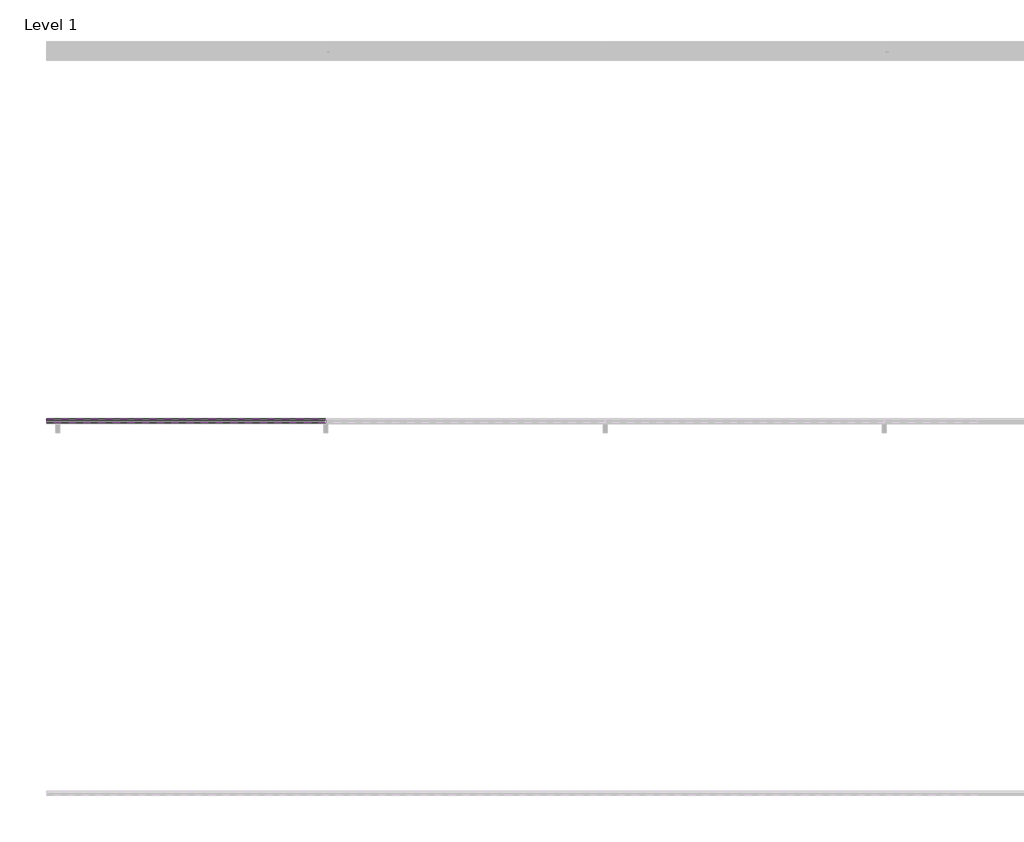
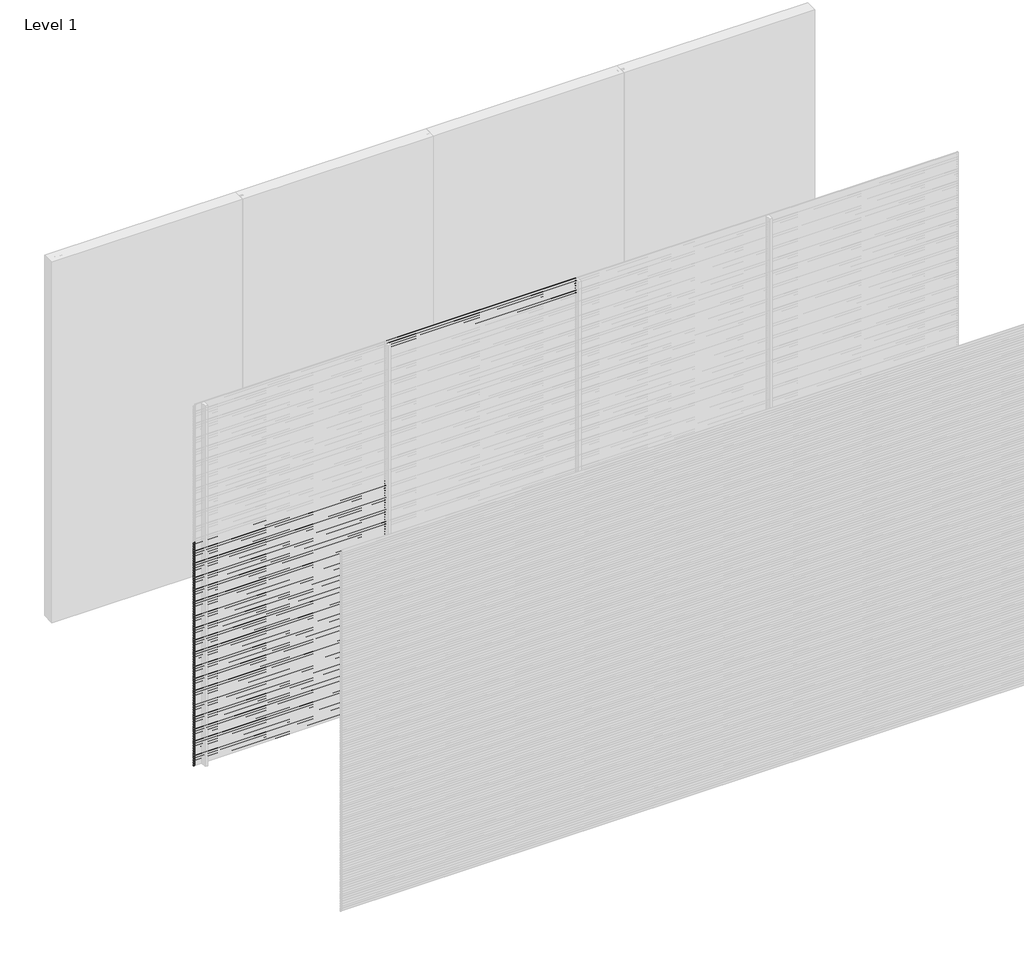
# One storey, part 19 of 31: 99 proxies.
"""IFC4 building model written with IfcOpenShell, lengths in millimetres."""

from ifc_helpers import new_model, si_unit, frame, origin, place, context, project, spatial, polyline, outline, extrude, element, save

model = new_model("IFC4")

# Units and contexts
model_context = context("Model", 3, world=origin())
ifc_project = project(units=[si_unit("LENGTHUNIT", "METRE", prefix="MILLI")], contexts=[model_context])

# Site, building, storey
site = spatial("IfcSite", under=ifc_project)
building = spatial("IfcBuilding", under=site)
storey = spatial("IfcBuildingStorey", under=building, Name="Level 1", Elevation=0.0)

# Proxies
placement = place(None, origin())
element("IfcBuildingElementProxy", 1, Name="Wall Sweeps", at=placement, inside=storey, context=model_context, shape_type="SweptSolid", body=[
    extrude(outline(polyline([(-5995.0, 1860.0), (-5995.0, 1848.942893), (-5976.0, 1833.0), (-5976.0, 1820.0), (-5997.0, 1837.6210923), (-5997.0, 1860.0), (-5995.0, 1860.0)])), frame((0.0, 0.0, 0.0), z_axis=(1.0, 0.0, 0.0), x_axis=(0.0, 1.0, 0.0)), (0.0, 0.0, 1.0), 1500.0),
])
element("IfcBuildingElementProxy", 2, Name="Wall Sweeps", at=placement, inside=storey, context=model_context, shape_type="SweptSolid", body=[
    extrude(outline(polyline([(-5995.0, 1840.0), (-5995.0, 1828.942893), (-5976.0, 1813.0), (-5976.0, 1800.0), (-5997.0, 1817.6210923), (-5997.0, 1840.0), (-5995.0, 1840.0)])), frame((0.0, 0.0, 0.0), z_axis=(1.0, 0.0, 0.0), x_axis=(0.0, 1.0, 0.0)), (0.0, 0.0, 1.0), 1500.0),
])
element("IfcBuildingElementProxy", 3, Name="Wall Sweeps", at=placement, inside=storey, context=model_context, shape_type="SweptSolid", body=[
    extrude(outline(polyline([(-5995.0, 1820.0), (-5995.0, 1808.942893), (-5976.0, 1793.0), (-5976.0, 1780.0), (-5997.0, 1797.6210923), (-5997.0, 1820.0), (-5995.0, 1820.0)])), frame((0.0, 0.0, 0.0), z_axis=(1.0, 0.0, 0.0), x_axis=(0.0, 1.0, 0.0)), (0.0, 0.0, 1.0), 1500.0),
])
element("IfcBuildingElementProxy", 4, Name="Wall Sweeps", at=placement, inside=storey, context=model_context, shape_type="SweptSolid", body=[
    extrude(outline(polyline([(-5995.0, 1800.0), (-5995.0, 1788.942893), (-5976.0, 1773.0), (-5976.0, 1760.0), (-5997.0, 1777.6210923), (-5997.0, 1800.0), (-5995.0, 1800.0)])), frame((0.0, 0.0, 0.0), z_axis=(1.0, 0.0, 0.0), x_axis=(0.0, 1.0, 0.0)), (0.0, 0.0, 1.0), 1500.0),
])
element("IfcBuildingElementProxy", 5, Name="Wall Sweeps", at=placement, inside=storey, context=model_context, shape_type="SweptSolid", body=[
    extrude(outline(polyline([(-5995.0, 1780.0), (-5995.0, 1768.942893), (-5976.0, 1753.0), (-5976.0, 1740.0), (-5997.0, 1757.6210923), (-5997.0, 1780.0), (-5995.0, 1780.0)])), frame((0.0, 0.0, 0.0), z_axis=(1.0, 0.0, 0.0), x_axis=(0.0, 1.0, 0.0)), (0.0, 0.0, 1.0), 1500.0),
])
element("IfcBuildingElementProxy", 6, Name="Wall Sweeps", at=placement, inside=storey, context=model_context, shape_type="SweptSolid", body=[
    extrude(outline(polyline([(-5995.0, 1760.0), (-5995.0, 1748.942893), (-5976.0, 1733.0), (-5976.0, 1720.0), (-5997.0, 1737.6210923), (-5997.0, 1760.0), (-5995.0, 1760.0)])), frame((0.0, 0.0, 0.0), z_axis=(1.0, 0.0, 0.0), x_axis=(0.0, 1.0, 0.0)), (0.0, 0.0, 1.0), 1500.0),
])
element("IfcBuildingElementProxy", 7, Name="Wall Sweeps", at=placement, inside=storey, context=model_context, shape_type="SweptSolid", body=[
    extrude(outline(polyline([(-5995.0, 1740.0), (-5995.0, 1728.942893), (-5976.0, 1713.0), (-5976.0, 1700.0), (-5997.0, 1717.6210923), (-5997.0, 1740.0), (-5995.0, 1740.0)])), frame((0.0, 0.0, 0.0), z_axis=(1.0, 0.0, 0.0), x_axis=(0.0, 1.0, 0.0)), (0.0, 0.0, 1.0), 1500.0),
])
element("IfcBuildingElementProxy", 8, Name="Wall Sweeps", at=placement, inside=storey, context=model_context, shape_type="SweptSolid", body=[
    extrude(outline(polyline([(-5995.0, 1720.0), (-5995.0, 1708.942893), (-5976.0, 1693.0), (-5976.0, 1680.0), (-5997.0, 1697.6210923), (-5997.0, 1720.0), (-5995.0, 1720.0)])), frame((0.0, 0.0, 0.0), z_axis=(1.0, 0.0, 0.0), x_axis=(0.0, 1.0, 0.0)), (0.0, 0.0, 1.0), 1500.0),
])
element("IfcBuildingElementProxy", 9, Name="Wall Sweeps", at=placement, inside=storey, context=model_context, shape_type="SweptSolid", body=[
    extrude(outline(polyline([(-5995.0, 1700.0), (-5995.0, 1688.942893), (-5976.0, 1673.0), (-5976.0, 1660.0), (-5997.0, 1677.6210923), (-5997.0, 1700.0), (-5995.0, 1700.0)])), frame((0.0, 0.0, 0.0), z_axis=(1.0, 0.0, 0.0), x_axis=(0.0, 1.0, 0.0)), (0.0, 0.0, 1.0), 1500.0),
])
element("IfcBuildingElementProxy", 10, Name="Wall Sweeps", at=placement, inside=storey, context=model_context, shape_type="SweptSolid", body=[
    extrude(outline(polyline([(-5995.0, 1680.0), (-5995.0, 1668.942893), (-5976.0, 1653.0), (-5976.0, 1640.0), (-5997.0, 1657.6210923), (-5997.0, 1680.0), (-5995.0, 1680.0)])), frame((0.0, 0.0, 0.0), z_axis=(1.0, 0.0, 0.0), x_axis=(0.0, 1.0, 0.0)), (0.0, 0.0, 1.0), 1500.0),
])
element("IfcBuildingElementProxy", 11, Name="Wall Sweeps", at=placement, inside=storey, context=model_context, shape_type="SweptSolid", body=[
    extrude(outline(polyline([(-5995.0, 1660.0), (-5995.0, 1648.942893), (-5976.0, 1633.0), (-5976.0, 1620.0), (-5997.0, 1637.6210923), (-5997.0, 1660.0), (-5995.0, 1660.0)])), frame((0.0, 0.0, 0.0), z_axis=(1.0, 0.0, 0.0), x_axis=(0.0, 1.0, 0.0)), (0.0, 0.0, 1.0), 1500.0),
])
element("IfcBuildingElementProxy", 12, Name="Wall Sweeps", at=placement, inside=storey, context=model_context, shape_type="SweptSolid", body=[
    extrude(outline(polyline([(-5995.0, 1640.0), (-5995.0, 1628.942893), (-5976.0, 1613.0), (-5976.0, 1600.0), (-5997.0, 1617.6210923), (-5997.0, 1640.0), (-5995.0, 1640.0)])), frame((0.0, 0.0, 0.0), z_axis=(1.0, 0.0, 0.0), x_axis=(0.0, 1.0, 0.0)), (0.0, 0.0, 1.0), 1500.0),
])
element("IfcBuildingElementProxy", 13, Name="Wall Sweeps", at=placement, inside=storey, context=model_context, shape_type="SweptSolid", body=[
    extrude(outline(polyline([(-5995.0, 1620.0), (-5995.0, 1608.942893), (-5976.0, 1593.0), (-5976.0, 1580.0), (-5997.0, 1597.6210923), (-5997.0, 1620.0), (-5995.0, 1620.0)])), frame((0.0, 0.0, 0.0), z_axis=(1.0, 0.0, 0.0), x_axis=(0.0, 1.0, 0.0)), (0.0, 0.0, 1.0), 1500.0),
])
element("IfcBuildingElementProxy", 14, Name="Wall Sweeps", at=placement, inside=storey, context=model_context, shape_type="SweptSolid", body=[
    extrude(outline(polyline([(-5995.0, 1600.0), (-5995.0, 1588.942893), (-5976.0, 1573.0), (-5976.0, 1560.0), (-5997.0, 1577.6210923), (-5997.0, 1600.0), (-5995.0, 1600.0)])), frame((0.0, 0.0, 0.0), z_axis=(1.0, 0.0, 0.0), x_axis=(0.0, 1.0, 0.0)), (0.0, 0.0, 1.0), 1500.0),
])
element("IfcBuildingElementProxy", 15, Name="Wall Sweeps", at=placement, inside=storey, context=model_context, shape_type="SweptSolid", body=[
    extrude(outline(polyline([(-5995.0, 1580.0), (-5995.0, 1568.942893), (-5976.0, 1553.0), (-5976.0, 1540.0), (-5997.0, 1557.6210923), (-5997.0, 1580.0), (-5995.0, 1580.0)])), frame((0.0, 0.0, 0.0), z_axis=(1.0, 0.0, 0.0), x_axis=(0.0, 1.0, 0.0)), (0.0, 0.0, 1.0), 1500.0),
])
element("IfcBuildingElementProxy", 16, Name="Wall Sweeps", at=placement, inside=storey, context=model_context, shape_type="SweptSolid", body=[
    extrude(outline(polyline([(-5995.0, 1560.0), (-5995.0, 1548.942893), (-5976.0, 1533.0), (-5976.0, 1520.0), (-5997.0, 1537.6210923), (-5997.0, 1560.0), (-5995.0, 1560.0)])), frame((0.0, 0.0, 0.0), z_axis=(1.0, 0.0, 0.0), x_axis=(0.0, 1.0, 0.0)), (0.0, 0.0, 1.0), 1500.0),
])
element("IfcBuildingElementProxy", 17, Name="Wall Sweeps", at=placement, inside=storey, context=model_context, shape_type="SweptSolid", body=[
    extrude(outline(polyline([(-5995.0, 1540.0), (-5995.0, 1528.942893), (-5976.0, 1513.0), (-5976.0, 1500.0), (-5997.0, 1517.6210923), (-5997.0, 1540.0), (-5995.0, 1540.0)])), frame((0.0, 0.0, 0.0), z_axis=(1.0, 0.0, 0.0), x_axis=(0.0, 1.0, 0.0)), (0.0, 0.0, 1.0), 1500.0),
])
element("IfcBuildingElementProxy", 18, Name="Wall Sweeps", at=placement, inside=storey, context=model_context, shape_type="SweptSolid", body=[
    extrude(outline(polyline([(-5995.0, 1520.0), (-5995.0, 1508.942893), (-5976.0, 1493.0), (-5976.0, 1480.0), (-5997.0, 1497.6210923), (-5997.0, 1520.0), (-5995.0, 1520.0)])), frame((0.0, 0.0, 0.0), z_axis=(1.0, 0.0, 0.0), x_axis=(0.0, 1.0, 0.0)), (0.0, 0.0, 1.0), 1500.0),
])
element("IfcBuildingElementProxy", 19, Name="Wall Sweeps", at=placement, inside=storey, context=model_context, shape_type="SweptSolid", body=[
    extrude(outline(polyline([(-5995.0, 1500.0), (-5995.0, 1488.942893), (-5976.0, 1473.0), (-5976.0, 1460.0), (-5997.0, 1477.6210923), (-5997.0, 1500.0), (-5995.0, 1500.0)])), frame((0.0, 0.0, 0.0), z_axis=(1.0, 0.0, 0.0), x_axis=(0.0, 1.0, 0.0)), (0.0, 0.0, 1.0), 1500.0),
])
element("IfcBuildingElementProxy", 20, Name="Wall Sweeps", at=placement, inside=storey, context=model_context, shape_type="SweptSolid", body=[
    extrude(outline(polyline([(-5995.0, 1480.0), (-5995.0, 1468.942893), (-5976.0, 1453.0), (-5976.0, 1440.0), (-5997.0, 1457.6210923), (-5997.0, 1480.0), (-5995.0, 1480.0)])), frame((0.0, 0.0, 0.0), z_axis=(1.0, 0.0, 0.0), x_axis=(0.0, 1.0, 0.0)), (0.0, 0.0, 1.0), 1500.0),
])
element("IfcBuildingElementProxy", 21, Name="Wall Sweeps", at=placement, inside=storey, context=model_context, shape_type="SweptSolid", body=[
    extrude(outline(polyline([(-5995.0, 1460.0), (-5995.0, 1448.942893), (-5976.0, 1433.0), (-5976.0, 1420.0), (-5997.0, 1437.6210923), (-5997.0, 1460.0), (-5995.0, 1460.0)])), frame((0.0, 0.0, 0.0), z_axis=(1.0, 0.0, 0.0), x_axis=(0.0, 1.0, 0.0)), (0.0, 0.0, 1.0), 1500.0),
])
element("IfcBuildingElementProxy", 22, Name="Wall Sweeps", at=placement, inside=storey, context=model_context, shape_type="SweptSolid", body=[
    extrude(outline(polyline([(-5995.0, 1440.0), (-5995.0, 1428.942893), (-5976.0, 1413.0), (-5976.0, 1400.0), (-5997.0, 1417.6210923), (-5997.0, 1440.0), (-5995.0, 1440.0)])), frame((0.0, 0.0, 0.0), z_axis=(1.0, 0.0, 0.0), x_axis=(0.0, 1.0, 0.0)), (0.0, 0.0, 1.0), 1500.0),
])
element("IfcBuildingElementProxy", 23, Name="Wall Sweeps", at=placement, inside=storey, context=model_context, shape_type="SweptSolid", body=[
    extrude(outline(polyline([(-5995.0, 1420.0), (-5995.0, 1408.942893), (-5976.0, 1393.0), (-5976.0, 1380.0), (-5997.0, 1397.6210923), (-5997.0, 1420.0), (-5995.0, 1420.0)])), frame((0.0, 0.0, 0.0), z_axis=(1.0, 0.0, 0.0), x_axis=(0.0, 1.0, 0.0)), (0.0, 0.0, 1.0), 1500.0),
])
element("IfcBuildingElementProxy", 24, Name="Wall Sweeps", at=placement, inside=storey, context=model_context, shape_type="SweptSolid", body=[
    extrude(outline(polyline([(-5995.0, 1400.0), (-5995.0, 1388.942893), (-5976.0, 1373.0), (-5976.0, 1360.0), (-5997.0, 1377.6210923), (-5997.0, 1400.0), (-5995.0, 1400.0)])), frame((0.0, 0.0, 0.0), z_axis=(1.0, 0.0, 0.0), x_axis=(0.0, 1.0, 0.0)), (0.0, 0.0, 1.0), 1500.0),
])
element("IfcBuildingElementProxy", 25, Name="Wall Sweeps", at=placement, inside=storey, context=model_context, shape_type="SweptSolid", body=[
    extrude(outline(polyline([(-5995.0, 1380.0), (-5995.0, 1368.942893), (-5976.0, 1353.0), (-5976.0, 1340.0), (-5997.0, 1357.6210923), (-5997.0, 1380.0), (-5995.0, 1380.0)])), frame((0.0, 0.0, 0.0), z_axis=(1.0, 0.0, 0.0), x_axis=(0.0, 1.0, 0.0)), (0.0, 0.0, 1.0), 1500.0),
])
element("IfcBuildingElementProxy", 26, Name="Wall Sweeps", at=placement, inside=storey, context=model_context, shape_type="SweptSolid", body=[
    extrude(outline(polyline([(-5995.0, 1360.0), (-5995.0, 1348.942893), (-5976.0, 1333.0), (-5976.0, 1320.0), (-5997.0, 1337.6210923), (-5997.0, 1360.0), (-5995.0, 1360.0)])), frame((0.0, 0.0, 0.0), z_axis=(1.0, 0.0, 0.0), x_axis=(0.0, 1.0, 0.0)), (0.0, 0.0, 1.0), 1500.0),
])
element("IfcBuildingElementProxy", 27, Name="Wall Sweeps", at=placement, inside=storey, context=model_context, shape_type="SweptSolid", body=[
    extrude(outline(polyline([(-5995.0, 1340.0), (-5995.0, 1328.942893), (-5976.0, 1313.0), (-5976.0, 1300.0), (-5997.0, 1317.6210923), (-5997.0, 1340.0), (-5995.0, 1340.0)])), frame((0.0, 0.0, 0.0), z_axis=(1.0, 0.0, 0.0), x_axis=(0.0, 1.0, 0.0)), (0.0, 0.0, 1.0), 1500.0),
])
element("IfcBuildingElementProxy", 28, Name="Wall Sweeps", at=placement, inside=storey, context=model_context, shape_type="SweptSolid", body=[
    extrude(outline(polyline([(-5995.0, 1320.0), (-5995.0, 1308.942893), (-5976.0, 1293.0), (-5976.0, 1280.0), (-5997.0, 1297.6210923), (-5997.0, 1320.0), (-5995.0, 1320.0)])), frame((0.0, 0.0, 0.0), z_axis=(1.0, 0.0, 0.0), x_axis=(0.0, 1.0, 0.0)), (0.0, 0.0, 1.0), 1500.0),
])
element("IfcBuildingElementProxy", 29, Name="Wall Sweeps", at=placement, inside=storey, context=model_context, shape_type="SweptSolid", body=[
    extrude(outline(polyline([(-5995.0, 1300.0), (-5995.0, 1288.942893), (-5976.0, 1273.0), (-5976.0, 1260.0), (-5997.0, 1277.6210923), (-5997.0, 1300.0), (-5995.0, 1300.0)])), frame((0.0, 0.0, 0.0), z_axis=(1.0, 0.0, 0.0), x_axis=(0.0, 1.0, 0.0)), (0.0, 0.0, 1.0), 1500.0),
])
element("IfcBuildingElementProxy", 30, Name="Wall Sweeps", at=placement, inside=storey, context=model_context, shape_type="SweptSolid", body=[
    extrude(outline(polyline([(-5995.0, 1280.0), (-5995.0, 1268.942893), (-5976.0, 1253.0), (-5976.0, 1240.0), (-5997.0, 1257.6210923), (-5997.0, 1280.0), (-5995.0, 1280.0)])), frame((0.0, 0.0, 0.0), z_axis=(1.0, 0.0, 0.0), x_axis=(0.0, 1.0, 0.0)), (0.0, 0.0, 1.0), 1500.0),
])
element("IfcBuildingElementProxy", 31, Name="Wall Sweeps", at=placement, inside=storey, context=model_context, shape_type="SweptSolid", body=[
    extrude(outline(polyline([(-5995.0, 1260.0), (-5995.0, 1248.942893), (-5976.0, 1233.0), (-5976.0, 1220.0), (-5997.0, 1237.6210923), (-5997.0, 1260.0), (-5995.0, 1260.0)])), frame((0.0, 0.0, 0.0), z_axis=(1.0, 0.0, 0.0), x_axis=(0.0, 1.0, 0.0)), (0.0, 0.0, 1.0), 1500.0),
])
element("IfcBuildingElementProxy", 32, Name="Wall Sweeps", at=placement, inside=storey, context=model_context, shape_type="SweptSolid", body=[
    extrude(outline(polyline([(-5995.0, 1240.0), (-5995.0, 1228.942893), (-5976.0, 1213.0), (-5976.0, 1200.0), (-5997.0, 1217.6210923), (-5997.0, 1240.0), (-5995.0, 1240.0)])), frame((0.0, 0.0, 0.0), z_axis=(1.0, 0.0, 0.0), x_axis=(0.0, 1.0, 0.0)), (0.0, 0.0, 1.0), 1500.0),
])
element("IfcBuildingElementProxy", 33, Name="Wall Sweeps", at=placement, inside=storey, context=model_context, shape_type="SweptSolid", body=[
    extrude(outline(polyline([(-5995.0, 1220.0), (-5995.0, 1208.942893), (-5976.0, 1193.0), (-5976.0, 1180.0), (-5997.0, 1197.6210923), (-5997.0, 1220.0), (-5995.0, 1220.0)])), frame((0.0, 0.0, 0.0), z_axis=(1.0, 0.0, 0.0), x_axis=(0.0, 1.0, 0.0)), (0.0, 0.0, 1.0), 1500.0),
])
element("IfcBuildingElementProxy", 34, Name="Wall Sweeps", at=placement, inside=storey, context=model_context, shape_type="SweptSolid", body=[
    extrude(outline(polyline([(-5995.0, 1200.0), (-5995.0, 1188.942893), (-5976.0, 1173.0), (-5976.0, 1160.0), (-5997.0, 1177.6210923), (-5997.0, 1200.0), (-5995.0, 1200.0)])), frame((0.0, 0.0, 0.0), z_axis=(1.0, 0.0, 0.0), x_axis=(0.0, 1.0, 0.0)), (0.0, 0.0, 1.0), 1500.0),
])
element("IfcBuildingElementProxy", 35, Name="Wall Sweeps", at=placement, inside=storey, context=model_context, shape_type="SweptSolid", body=[
    extrude(outline(polyline([(-5995.0, 1180.0), (-5995.0, 1168.942893), (-5976.0, 1153.0), (-5976.0, 1140.0), (-5997.0, 1157.6210923), (-5997.0, 1180.0), (-5995.0, 1180.0)])), frame((0.0, 0.0, 0.0), z_axis=(1.0, 0.0, 0.0), x_axis=(0.0, 1.0, 0.0)), (0.0, 0.0, 1.0), 1500.0),
])
element("IfcBuildingElementProxy", 36, Name="Wall Sweeps", at=placement, inside=storey, context=model_context, shape_type="SweptSolid", body=[
    extrude(outline(polyline([(-5995.0, 1160.0), (-5995.0, 1148.942893), (-5976.0, 1133.0), (-5976.0, 1120.0), (-5997.0, 1137.6210923), (-5997.0, 1160.0), (-5995.0, 1160.0)])), frame((0.0, 0.0, 0.0), z_axis=(1.0, 0.0, 0.0), x_axis=(0.0, 1.0, 0.0)), (0.0, 0.0, 1.0), 1500.0),
])
element("IfcBuildingElementProxy", 37, Name="Wall Sweeps", at=placement, inside=storey, context=model_context, shape_type="SweptSolid", body=[
    extrude(outline(polyline([(-5995.0, 1140.0), (-5995.0, 1128.942893), (-5976.0, 1113.0), (-5976.0, 1100.0), (-5997.0, 1117.6210923), (-5997.0, 1140.0), (-5995.0, 1140.0)])), frame((0.0, 0.0, 0.0), z_axis=(1.0, 0.0, 0.0), x_axis=(0.0, 1.0, 0.0)), (0.0, 0.0, 1.0), 1500.0),
])
element("IfcBuildingElementProxy", 38, Name="Wall Sweeps", at=placement, inside=storey, context=model_context, shape_type="SweptSolid", body=[
    extrude(outline(polyline([(-5995.0, 1120.0), (-5995.0, 1108.942893), (-5976.0, 1093.0), (-5976.0, 1080.0), (-5997.0, 1097.6210923), (-5997.0, 1120.0), (-5995.0, 1120.0)])), frame((0.0, 0.0, 0.0), z_axis=(1.0, 0.0, 0.0), x_axis=(0.0, 1.0, 0.0)), (0.0, 0.0, 1.0), 1500.0),
])
element("IfcBuildingElementProxy", 39, Name="Wall Sweeps", at=placement, inside=storey, context=model_context, shape_type="SweptSolid", body=[
    extrude(outline(polyline([(-5995.0, 1100.0), (-5995.0, 1088.942893), (-5976.0, 1073.0), (-5976.0, 1060.0), (-5997.0, 1077.6210923), (-5997.0, 1100.0), (-5995.0, 1100.0)])), frame((0.0, 0.0, 0.0), z_axis=(1.0, 0.0, 0.0), x_axis=(0.0, 1.0, 0.0)), (0.0, 0.0, 1.0), 1500.0),
])
element("IfcBuildingElementProxy", 40, Name="Wall Sweeps", at=placement, inside=storey, context=model_context, shape_type="SweptSolid", body=[
    extrude(outline(polyline([(-5995.0, 1080.0), (-5995.0, 1068.942893), (-5976.0, 1053.0), (-5976.0, 1040.0), (-5997.0, 1057.6210923), (-5997.0, 1080.0), (-5995.0, 1080.0)])), frame((0.0, 0.0, 0.0), z_axis=(1.0, 0.0, 0.0), x_axis=(0.0, 1.0, 0.0)), (0.0, 0.0, 1.0), 1500.0),
])
element("IfcBuildingElementProxy", 41, Name="Wall Sweeps", at=placement, inside=storey, context=model_context, shape_type="SweptSolid", body=[
    extrude(outline(polyline([(-5995.0, 1060.0), (-5995.0, 1048.942893), (-5976.0, 1033.0), (-5976.0, 1020.0), (-5997.0, 1037.6210923), (-5997.0, 1060.0), (-5995.0, 1060.0)])), frame((0.0, 0.0, 0.0), z_axis=(1.0, 0.0, 0.0), x_axis=(0.0, 1.0, 0.0)), (0.0, 0.0, 1.0), 1500.0),
])
element("IfcBuildingElementProxy", 42, Name="Wall Sweeps", at=placement, inside=storey, context=model_context, shape_type="SweptSolid", body=[
    extrude(outline(polyline([(-5995.0, 1040.0), (-5995.0, 1028.942893), (-5976.0, 1013.0), (-5976.0, 1000.0), (-5997.0, 1017.6210923), (-5997.0, 1040.0), (-5995.0, 1040.0)])), frame((0.0, 0.0, 0.0), z_axis=(1.0, 0.0, 0.0), x_axis=(0.0, 1.0, 0.0)), (0.0, 0.0, 1.0), 1500.0),
])
element("IfcBuildingElementProxy", 43, Name="Wall Sweeps", at=placement, inside=storey, context=model_context, shape_type="SweptSolid", body=[
    extrude(outline(polyline([(-5995.0, 1020.0), (-5995.0, 1008.942893), (-5976.0, 993.0), (-5976.0, 980.0), (-5997.0, 997.6210923), (-5997.0, 1020.0), (-5995.0, 1020.0)])), frame((0.0, 0.0, 0.0), z_axis=(1.0, 0.0, 0.0), x_axis=(0.0, 1.0, 0.0)), (0.0, 0.0, 1.0), 1500.0),
])
element("IfcBuildingElementProxy", 44, Name="Wall Sweeps", at=placement, inside=storey, context=model_context, shape_type="SweptSolid", body=[
    extrude(outline(polyline([(-5995.0, 1000.0), (-5995.0, 988.942893), (-5976.0, 973.0), (-5976.0, 960.0), (-5997.0, 977.6210923), (-5997.0, 1000.0), (-5995.0, 1000.0)])), frame((0.0, 0.0, 0.0), z_axis=(1.0, 0.0, 0.0), x_axis=(0.0, 1.0, 0.0)), (0.0, 0.0, 1.0), 1500.0),
])
element("IfcBuildingElementProxy", 45, Name="Wall Sweeps", at=placement, inside=storey, context=model_context, shape_type="SweptSolid", body=[
    extrude(outline(polyline([(-5995.0, 980.0), (-5995.0, 968.942893), (-5976.0, 953.0), (-5976.0, 940.0), (-5997.0, 957.6210923), (-5997.0, 980.0), (-5995.0, 980.0)])), frame((0.0, 0.0, 0.0), z_axis=(1.0, 0.0, 0.0), x_axis=(0.0, 1.0, 0.0)), (0.0, 0.0, 1.0), 1500.0),
])
element("IfcBuildingElementProxy", 46, Name="Wall Sweeps", at=placement, inside=storey, context=model_context, shape_type="SweptSolid", body=[
    extrude(outline(polyline([(-5995.0, 960.0), (-5995.0, 948.942893), (-5976.0, 933.0), (-5976.0, 920.0), (-5997.0, 937.6210923), (-5997.0, 960.0), (-5995.0, 960.0)])), frame((0.0, 0.0, 0.0), z_axis=(1.0, 0.0, 0.0), x_axis=(0.0, 1.0, 0.0)), (0.0, 0.0, 1.0), 1500.0),
])
element("IfcBuildingElementProxy", 47, Name="Wall Sweeps", at=placement, inside=storey, context=model_context, shape_type="SweptSolid", body=[
    extrude(outline(polyline([(-5995.0, 940.0), (-5995.0, 928.942893), (-5976.0, 913.0), (-5976.0, 900.0), (-5997.0, 917.6210923), (-5997.0, 940.0), (-5995.0, 940.0)])), frame((0.0, 0.0, 0.0), z_axis=(1.0, 0.0, 0.0), x_axis=(0.0, 1.0, 0.0)), (0.0, 0.0, 1.0), 1500.0),
])
element("IfcBuildingElementProxy", 48, Name="Wall Sweeps", at=placement, inside=storey, context=model_context, shape_type="SweptSolid", body=[
    extrude(outline(polyline([(-5995.0, 920.0), (-5995.0, 908.942893), (-5976.0, 893.0), (-5976.0, 880.0), (-5997.0, 897.6210923), (-5997.0, 920.0), (-5995.0, 920.0)])), frame((0.0, 0.0, 0.0), z_axis=(1.0, 0.0, 0.0), x_axis=(0.0, 1.0, 0.0)), (0.0, 0.0, 1.0), 1500.0),
])
element("IfcBuildingElementProxy", 49, Name="Wall Sweeps", at=placement, inside=storey, context=model_context, shape_type="SweptSolid", body=[
    extrude(outline(polyline([(-5995.0, 900.0), (-5995.0, 888.942893), (-5976.0, 873.0), (-5976.0, 860.0), (-5997.0, 877.6210923), (-5997.0, 900.0), (-5995.0, 900.0)])), frame((0.0, 0.0, 0.0), z_axis=(1.0, 0.0, 0.0), x_axis=(0.0, 1.0, 0.0)), (0.0, 0.0, 1.0), 1500.0),
])
element("IfcBuildingElementProxy", 50, Name="Wall Sweeps", at=placement, inside=storey, context=model_context, shape_type="SweptSolid", body=[
    extrude(outline(polyline([(-5995.0, 880.0), (-5995.0, 868.942893), (-5976.0, 853.0), (-5976.0, 840.0), (-5997.0, 857.6210923), (-5997.0, 880.0), (-5995.0, 880.0)])), frame((0.0, 0.0, 0.0), z_axis=(1.0, 0.0, 0.0), x_axis=(0.0, 1.0, 0.0)), (0.0, 0.0, 1.0), 1500.0),
])
element("IfcBuildingElementProxy", 51, Name="Wall Sweeps", at=placement, inside=storey, context=model_context, shape_type="SweptSolid", body=[
    extrude(outline(polyline([(-5995.0, 860.0), (-5995.0, 848.942893), (-5976.0, 833.0), (-5976.0, 820.0), (-5997.0, 837.6210923), (-5997.0, 860.0), (-5995.0, 860.0)])), frame((0.0, 0.0, 0.0), z_axis=(1.0, 0.0, 0.0), x_axis=(0.0, 1.0, 0.0)), (0.0, 0.0, 1.0), 1500.0),
])
element("IfcBuildingElementProxy", 52, Name="Wall Sweeps", at=placement, inside=storey, context=model_context, shape_type="SweptSolid", body=[
    extrude(outline(polyline([(-5995.0, 840.0), (-5995.0, 828.942893), (-5976.0, 813.0), (-5976.0, 800.0), (-5997.0, 817.6210923), (-5997.0, 840.0), (-5995.0, 840.0)])), frame((0.0, 0.0, 0.0), z_axis=(1.0, 0.0, 0.0), x_axis=(0.0, 1.0, 0.0)), (0.0, 0.0, 1.0), 1500.0),
])
element("IfcBuildingElementProxy", 53, Name="Wall Sweeps", at=placement, inside=storey, context=model_context, shape_type="SweptSolid", body=[
    extrude(outline(polyline([(-5995.0, 820.0), (-5995.0, 808.942893), (-5976.0, 793.0), (-5976.0, 780.0), (-5997.0, 797.6210923), (-5997.0, 820.0), (-5995.0, 820.0)])), frame((0.0, 0.0, 0.0), z_axis=(1.0, 0.0, 0.0), x_axis=(0.0, 1.0, 0.0)), (0.0, 0.0, 1.0), 1500.0),
])
element("IfcBuildingElementProxy", 54, Name="Wall Sweeps", at=placement, inside=storey, context=model_context, shape_type="SweptSolid", body=[
    extrude(outline(polyline([(-5995.0, 800.0), (-5995.0, 788.942893), (-5976.0, 773.0), (-5976.0, 760.0), (-5997.0, 777.6210923), (-5997.0, 800.0), (-5995.0, 800.0)])), frame((0.0, 0.0, 0.0), z_axis=(1.0, 0.0, 0.0), x_axis=(0.0, 1.0, 0.0)), (0.0, 0.0, 1.0), 1500.0),
])
element("IfcBuildingElementProxy", 55, Name="Wall Sweeps", at=placement, inside=storey, context=model_context, shape_type="SweptSolid", body=[
    extrude(outline(polyline([(-5995.0, 780.0), (-5995.0, 768.942893), (-5976.0, 753.0), (-5976.0, 740.0), (-5997.0, 757.6210923), (-5997.0, 780.0), (-5995.0, 780.0)])), frame((0.0, 0.0, 0.0), z_axis=(1.0, 0.0, 0.0), x_axis=(0.0, 1.0, 0.0)), (0.0, 0.0, 1.0), 1500.0),
])
element("IfcBuildingElementProxy", 56, Name="Wall Sweeps", at=placement, inside=storey, context=model_context, shape_type="SweptSolid", body=[
    extrude(outline(polyline([(-5995.0, 760.0), (-5995.0, 748.942893), (-5976.0, 733.0), (-5976.0, 720.0), (-5997.0, 737.6210923), (-5997.0, 760.0), (-5995.0, 760.0)])), frame((0.0, 0.0, 0.0), z_axis=(1.0, 0.0, 0.0), x_axis=(0.0, 1.0, 0.0)), (0.0, 0.0, 1.0), 1500.0),
])
element("IfcBuildingElementProxy", 57, Name="Wall Sweeps", at=placement, inside=storey, context=model_context, shape_type="SweptSolid", body=[
    extrude(outline(polyline([(-5995.0, 740.0), (-5995.0, 728.942893), (-5976.0, 713.0), (-5976.0, 700.0), (-5997.0, 717.6210923), (-5997.0, 740.0), (-5995.0, 740.0)])), frame((0.0, 0.0, 0.0), z_axis=(1.0, 0.0, 0.0), x_axis=(0.0, 1.0, 0.0)), (0.0, 0.0, 1.0), 1500.0),
])
element("IfcBuildingElementProxy", 58, Name="Wall Sweeps", at=placement, inside=storey, context=model_context, shape_type="SweptSolid", body=[
    extrude(outline(polyline([(-5995.0, 720.0), (-5995.0, 708.942893), (-5976.0, 693.0), (-5976.0, 680.0), (-5997.0, 697.6210923), (-5997.0, 720.0), (-5995.0, 720.0)])), frame((0.0, 0.0, 0.0), z_axis=(1.0, 0.0, 0.0), x_axis=(0.0, 1.0, 0.0)), (0.0, 0.0, 1.0), 1500.0),
])
element("IfcBuildingElementProxy", 59, Name="Wall Sweeps", at=placement, inside=storey, context=model_context, shape_type="SweptSolid", body=[
    extrude(outline(polyline([(-5995.0, 700.0), (-5995.0, 688.942893), (-5976.0, 673.0), (-5976.0, 660.0), (-5997.0, 677.6210923), (-5997.0, 700.0), (-5995.0, 700.0)])), frame((0.0, 0.0, 0.0), z_axis=(1.0, 0.0, 0.0), x_axis=(0.0, 1.0, 0.0)), (0.0, 0.0, 1.0), 1500.0),
])
element("IfcBuildingElementProxy", 60, Name="Wall Sweeps", at=placement, inside=storey, context=model_context, shape_type="SweptSolid", body=[
    extrude(outline(polyline([(-5995.0, 680.0), (-5995.0, 668.942893), (-5976.0, 653.0), (-5976.0, 640.0), (-5997.0, 657.6210923), (-5997.0, 680.0), (-5995.0, 680.0)])), frame((0.0, 0.0, 0.0), z_axis=(1.0, 0.0, 0.0), x_axis=(0.0, 1.0, 0.0)), (0.0, 0.0, 1.0), 1500.0),
])
element("IfcBuildingElementProxy", 61, Name="Wall Sweeps", at=placement, inside=storey, context=model_context, shape_type="SweptSolid", body=[
    extrude(outline(polyline([(-5995.0, 660.0), (-5995.0, 648.942893), (-5976.0, 633.0), (-5976.0, 620.0), (-5997.0, 637.6210923), (-5997.0, 660.0), (-5995.0, 660.0)])), frame((0.0, 0.0, 0.0), z_axis=(1.0, 0.0, 0.0), x_axis=(0.0, 1.0, 0.0)), (0.0, 0.0, 1.0), 1500.0),
])
element("IfcBuildingElementProxy", 62, Name="Wall Sweeps", at=placement, inside=storey, context=model_context, shape_type="SweptSolid", body=[
    extrude(outline(polyline([(-5995.0, 640.0), (-5995.0, 628.942893), (-5976.0, 613.0), (-5976.0, 600.0), (-5997.0, 617.6210923), (-5997.0, 640.0), (-5995.0, 640.0)])), frame((0.0, 0.0, 0.0), z_axis=(1.0, 0.0, 0.0), x_axis=(0.0, 1.0, 0.0)), (0.0, 0.0, 1.0), 1500.0),
])
element("IfcBuildingElementProxy", 63, Name="Wall Sweeps", at=placement, inside=storey, context=model_context, shape_type="SweptSolid", body=[
    extrude(outline(polyline([(-5995.0, 620.0), (-5995.0, 608.942893), (-5976.0, 593.0), (-5976.0, 580.0), (-5997.0, 597.6210923), (-5997.0, 620.0), (-5995.0, 620.0)])), frame((0.0, 0.0, 0.0), z_axis=(1.0, 0.0, 0.0), x_axis=(0.0, 1.0, 0.0)), (0.0, 0.0, 1.0), 1500.0),
])
element("IfcBuildingElementProxy", 64, Name="Wall Sweeps", at=placement, inside=storey, context=model_context, shape_type="SweptSolid", body=[
    extrude(outline(polyline([(-5995.0, 600.0), (-5995.0, 588.942893), (-5976.0, 573.0), (-5976.0, 560.0), (-5997.0, 577.6210923), (-5997.0, 600.0), (-5995.0, 600.0)])), frame((0.0, 0.0, 0.0), z_axis=(1.0, 0.0, 0.0), x_axis=(0.0, 1.0, 0.0)), (0.0, 0.0, 1.0), 1500.0),
])
element("IfcBuildingElementProxy", 65, Name="Wall Sweeps", at=placement, inside=storey, context=model_context, shape_type="SweptSolid", body=[
    extrude(outline(polyline([(-5995.0, 580.0), (-5995.0, 568.942893), (-5976.0, 553.0), (-5976.0, 540.0), (-5997.0, 557.6210923), (-5997.0, 580.0), (-5995.0, 580.0)])), frame((0.0, 0.0, 0.0), z_axis=(1.0, 0.0, 0.0), x_axis=(0.0, 1.0, 0.0)), (0.0, 0.0, 1.0), 1500.0),
])
element("IfcBuildingElementProxy", 66, Name="Wall Sweeps", at=placement, inside=storey, context=model_context, shape_type="SweptSolid", body=[
    extrude(outline(polyline([(-5995.0, 560.0), (-5995.0, 548.942893), (-5976.0, 533.0), (-5976.0, 520.0), (-5997.0, 537.6210923), (-5997.0, 560.0), (-5995.0, 560.0)])), frame((0.0, 0.0, 0.0), z_axis=(1.0, 0.0, 0.0), x_axis=(0.0, 1.0, 0.0)), (0.0, 0.0, 1.0), 1500.0),
])
element("IfcBuildingElementProxy", 67, Name="Wall Sweeps", at=placement, inside=storey, context=model_context, shape_type="SweptSolid", body=[
    extrude(outline(polyline([(-5995.0, 540.0), (-5995.0, 528.942893), (-5976.0, 513.0), (-5976.0, 500.0), (-5997.0, 517.6210923), (-5997.0, 540.0), (-5995.0, 540.0)])), frame((0.0, 0.0, 0.0), z_axis=(1.0, 0.0, 0.0), x_axis=(0.0, 1.0, 0.0)), (0.0, 0.0, 1.0), 1500.0),
])
element("IfcBuildingElementProxy", 68, Name="Wall Sweeps", at=placement, inside=storey, context=model_context, shape_type="SweptSolid", body=[
    extrude(outline(polyline([(-5995.0, 520.0), (-5995.0, 508.942893), (-5976.0, 493.0), (-5976.0, 480.0), (-5997.0, 497.6210923), (-5997.0, 520.0), (-5995.0, 520.0)])), frame((0.0, 0.0, 0.0), z_axis=(1.0, 0.0, 0.0), x_axis=(0.0, 1.0, 0.0)), (0.0, 0.0, 1.0), 1500.0),
])
element("IfcBuildingElementProxy", 69, Name="Wall Sweeps", at=placement, inside=storey, context=model_context, shape_type="SweptSolid", body=[
    extrude(outline(polyline([(-5995.0, 500.0), (-5995.0, 488.942893), (-5976.0, 473.0), (-5976.0, 460.0), (-5997.0, 477.6210923), (-5997.0, 500.0), (-5995.0, 500.0)])), frame((0.0, 0.0, 0.0), z_axis=(1.0, 0.0, 0.0), x_axis=(0.0, 1.0, 0.0)), (0.0, 0.0, 1.0), 1500.0),
])
element("IfcBuildingElementProxy", 70, Name="Wall Sweeps", at=placement, inside=storey, context=model_context, shape_type="SweptSolid", body=[
    extrude(outline(polyline([(-5995.0, 480.0), (-5995.0, 468.942893), (-5976.0, 453.0), (-5976.0, 440.0), (-5997.0, 457.6210923), (-5997.0, 480.0), (-5995.0, 480.0)])), frame((0.0, 0.0, 0.0), z_axis=(1.0, 0.0, 0.0), x_axis=(0.0, 1.0, 0.0)), (0.0, 0.0, 1.0), 1500.0),
])
element("IfcBuildingElementProxy", 71, Name="Wall Sweeps", at=placement, inside=storey, context=model_context, shape_type="SweptSolid", body=[
    extrude(outline(polyline([(-5995.0, 460.0), (-5995.0, 448.942893), (-5976.0, 433.0), (-5976.0, 420.0), (-5997.0, 437.6210923), (-5997.0, 460.0), (-5995.0, 460.0)])), frame((0.0, 0.0, 0.0), z_axis=(1.0, 0.0, 0.0), x_axis=(0.0, 1.0, 0.0)), (0.0, 0.0, 1.0), 1500.0),
])
element("IfcBuildingElementProxy", 72, Name="Wall Sweeps", at=placement, inside=storey, context=model_context, shape_type="SweptSolid", body=[
    extrude(outline(polyline([(-5995.0, 440.0), (-5995.0, 428.942893), (-5976.0, 413.0), (-5976.0, 400.0), (-5997.0, 417.6210923), (-5997.0, 440.0), (-5995.0, 440.0)])), frame((0.0, 0.0, 0.0), z_axis=(1.0, 0.0, 0.0), x_axis=(0.0, 1.0, 0.0)), (0.0, 0.0, 1.0), 1500.0),
])
element("IfcBuildingElementProxy", 73, Name="Wall Sweeps", at=placement, inside=storey, context=model_context, shape_type="SweptSolid", body=[
    extrude(outline(polyline([(-5995.0, 420.0), (-5995.0, 408.942893), (-5976.0, 393.0), (-5976.0, 380.0), (-5997.0, 397.6210923), (-5997.0, 420.0), (-5995.0, 420.0)])), frame((0.0, 0.0, 0.0), z_axis=(1.0, 0.0, 0.0), x_axis=(0.0, 1.0, 0.0)), (0.0, 0.0, 1.0), 1500.0),
])
element("IfcBuildingElementProxy", 74, Name="Wall Sweeps", at=placement, inside=storey, context=model_context, shape_type="SweptSolid", body=[
    extrude(outline(polyline([(-5995.0, 400.0), (-5995.0, 388.942893), (-5976.0, 373.0), (-5976.0, 360.0), (-5997.0, 377.6210923), (-5997.0, 400.0), (-5995.0, 400.0)])), frame((0.0, 0.0, 0.0), z_axis=(1.0, 0.0, 0.0), x_axis=(0.0, 1.0, 0.0)), (0.0, 0.0, 1.0), 1500.0),
])
element("IfcBuildingElementProxy", 75, Name="Wall Sweeps", at=placement, inside=storey, context=model_context, shape_type="SweptSolid", body=[
    extrude(outline(polyline([(-5995.0, 380.0), (-5995.0, 368.942893), (-5976.0, 353.0), (-5976.0, 340.0), (-5997.0, 357.6210923), (-5997.0, 380.0), (-5995.0, 380.0)])), frame((0.0, 0.0, 0.0), z_axis=(1.0, 0.0, 0.0), x_axis=(0.0, 1.0, 0.0)), (0.0, 0.0, 1.0), 1500.0),
])
element("IfcBuildingElementProxy", 76, Name="Wall Sweeps", at=placement, inside=storey, context=model_context, shape_type="SweptSolid", body=[
    extrude(outline(polyline([(-5995.0, 360.0), (-5995.0, 348.942893), (-5976.0, 333.0), (-5976.0, 320.0), (-5997.0, 337.6210923), (-5997.0, 360.0), (-5995.0, 360.0)])), frame((0.0, 0.0, 0.0), z_axis=(1.0, 0.0, 0.0), x_axis=(0.0, 1.0, 0.0)), (0.0, 0.0, 1.0), 1500.0),
])
element("IfcBuildingElementProxy", 77, Name="Wall Sweeps", at=placement, inside=storey, context=model_context, shape_type="SweptSolid", body=[
    extrude(outline(polyline([(-5995.0, 340.0), (-5995.0, 328.942893), (-5976.0, 313.0), (-5976.0, 300.0), (-5997.0, 317.6210923), (-5997.0, 340.0), (-5995.0, 340.0)])), frame((0.0, 0.0, 0.0), z_axis=(1.0, 0.0, 0.0), x_axis=(0.0, 1.0, 0.0)), (0.0, 0.0, 1.0), 1500.0),
])
element("IfcBuildingElementProxy", 78, Name="Wall Sweeps", at=placement, inside=storey, context=model_context, shape_type="SweptSolid", body=[
    extrude(outline(polyline([(-5995.0, 320.0), (-5995.0, 308.942893), (-5976.0, 293.0), (-5976.0, 280.0), (-5997.0, 297.6210923), (-5997.0, 320.0), (-5995.0, 320.0)])), frame((0.0, 0.0, 0.0), z_axis=(1.0, 0.0, 0.0), x_axis=(0.0, 1.0, 0.0)), (0.0, 0.0, 1.0), 1500.0),
])
element("IfcBuildingElementProxy", 79, Name="Wall Sweeps", at=placement, inside=storey, context=model_context, shape_type="SweptSolid", body=[
    extrude(outline(polyline([(-5995.0, 300.0), (-5995.0, 288.942893), (-5976.0, 273.0), (-5976.0, 260.0), (-5997.0, 277.6210923), (-5997.0, 300.0), (-5995.0, 300.0)])), frame((0.0, 0.0, 0.0), z_axis=(1.0, 0.0, 0.0), x_axis=(0.0, 1.0, 0.0)), (0.0, 0.0, 1.0), 1500.0),
])
element("IfcBuildingElementProxy", 80, Name="Wall Sweeps", at=placement, inside=storey, context=model_context, shape_type="SweptSolid", body=[
    extrude(outline(polyline([(-5995.0, 280.0), (-5995.0, 268.942893), (-5976.0, 253.0), (-5976.0, 240.0), (-5997.0, 257.6210923), (-5997.0, 280.0), (-5995.0, 280.0)])), frame((0.0, 0.0, 0.0), z_axis=(1.0, 0.0, 0.0), x_axis=(0.0, 1.0, 0.0)), (0.0, 0.0, 1.0), 1500.0),
])
element("IfcBuildingElementProxy", 81, Name="Wall Sweeps", at=placement, inside=storey, context=model_context, shape_type="SweptSolid", body=[
    extrude(outline(polyline([(-5995.0, 260.0), (-5995.0, 248.942893), (-5976.0, 233.0), (-5976.0, 220.0), (-5997.0, 237.6210923), (-5997.0, 260.0), (-5995.0, 260.0)])), frame((0.0, 0.0, 0.0), z_axis=(1.0, 0.0, 0.0), x_axis=(0.0, 1.0, 0.0)), (0.0, 0.0, 1.0), 1500.0),
])
element("IfcBuildingElementProxy", 82, Name="Wall Sweeps", at=placement, inside=storey, context=model_context, shape_type="SweptSolid", body=[
    extrude(outline(polyline([(-5995.0, 240.0), (-5995.0, 228.942893), (-5976.0, 213.0), (-5976.0, 200.0), (-5997.0, 217.6210923), (-5997.0, 240.0), (-5995.0, 240.0)])), frame((0.0, 0.0, 0.0), z_axis=(1.0, 0.0, 0.0), x_axis=(0.0, 1.0, 0.0)), (0.0, 0.0, 1.0), 1500.0),
])
element("IfcBuildingElementProxy", 83, Name="Wall Sweeps", at=placement, inside=storey, context=model_context, shape_type="SweptSolid", body=[
    extrude(outline(polyline([(-5995.0, 220.0), (-5995.0, 208.942893), (-5976.0, 193.0), (-5976.0, 180.0), (-5997.0, 197.6210923), (-5997.0, 220.0), (-5995.0, 220.0)])), frame((0.0, 0.0, 0.0), z_axis=(1.0, 0.0, 0.0), x_axis=(0.0, 1.0, 0.0)), (0.0, 0.0, 1.0), 1500.0),
])
element("IfcBuildingElementProxy", 84, Name="Wall Sweeps", at=placement, inside=storey, context=model_context, shape_type="SweptSolid", body=[
    extrude(outline(polyline([(-5995.0, 200.0), (-5995.0, 188.942893), (-5976.0, 173.0), (-5976.0, 160.0), (-5997.0, 177.6210923), (-5997.0, 200.0), (-5995.0, 200.0)])), frame((0.0, 0.0, 0.0), z_axis=(1.0, 0.0, 0.0), x_axis=(0.0, 1.0, 0.0)), (0.0, 0.0, 1.0), 1500.0),
])
element("IfcBuildingElementProxy", 85, Name="Wall Sweeps", at=placement, inside=storey, context=model_context, shape_type="SweptSolid", body=[
    extrude(outline(polyline([(-5995.0, 180.0), (-5995.0, 168.942893), (-5976.0, 153.0), (-5976.0, 140.0), (-5997.0, 157.6210923), (-5997.0, 180.0), (-5995.0, 180.0)])), frame((0.0, 0.0, 0.0), z_axis=(1.0, 0.0, 0.0), x_axis=(0.0, 1.0, 0.0)), (0.0, 0.0, 1.0), 1500.0),
])
element("IfcBuildingElementProxy", 86, Name="Wall Sweeps", at=placement, inside=storey, context=model_context, shape_type="SweptSolid", body=[
    extrude(outline(polyline([(-5995.0, 160.0), (-5995.0, 148.942893), (-5976.0, 133.0), (-5976.0, 120.0), (-5997.0, 137.6210923), (-5997.0, 160.0), (-5995.0, 160.0)])), frame((0.0, 0.0, 0.0), z_axis=(1.0, 0.0, 0.0), x_axis=(0.0, 1.0, 0.0)), (0.0, 0.0, 1.0), 1500.0),
])
element("IfcBuildingElementProxy", 87, Name="Wall Sweeps", at=placement, inside=storey, context=model_context, shape_type="SweptSolid", body=[
    extrude(outline(polyline([(-5995.0, 140.0), (-5995.0, 128.942893), (-5976.0, 113.0), (-5976.0, 100.0), (-5997.0, 117.6210923), (-5997.0, 140.0), (-5995.0, 140.0)])), frame((0.0, 0.0, 0.0), z_axis=(1.0, 0.0, 0.0), x_axis=(0.0, 1.0, 0.0)), (0.0, 0.0, 1.0), 1500.0),
])
element("IfcBuildingElementProxy", 88, Name="Wall Sweeps", at=placement, inside=storey, context=model_context, shape_type="SweptSolid", body=[
    extrude(outline(polyline([(-5995.0, 120.0), (-5995.0, 108.942893), (-5976.0, 93.0), (-5976.0, 80.0), (-5997.0, 97.6210923), (-5997.0, 120.0), (-5995.0, 120.0)])), frame((0.0, 0.0, 0.0), z_axis=(1.0, 0.0, 0.0), x_axis=(0.0, 1.0, 0.0)), (0.0, 0.0, 1.0), 1500.0),
])
element("IfcBuildingElementProxy", 89, Name="Wall Sweeps", at=placement, inside=storey, context=model_context, shape_type="SweptSolid", body=[
    extrude(outline(polyline([(-5995.0, 100.0), (-5995.0, 88.942893), (-5976.0, 73.0), (-5976.0, 60.0), (-5997.0, 77.6210923), (-5997.0, 100.0), (-5995.0, 100.0)])), frame((0.0, 0.0, 0.0), z_axis=(1.0, 0.0, 0.0), x_axis=(0.0, 1.0, 0.0)), (0.0, 0.0, 1.0), 1500.0),
])
element("IfcBuildingElementProxy", 90, Name="Wall Sweeps", at=placement, inside=storey, context=model_context, shape_type="SweptSolid", body=[
    extrude(outline(polyline([(-5995.0, 80.0), (-5995.0, 68.942893), (-5976.0, 53.0), (-5976.0, 40.0), (-5997.0, 57.6210923), (-5997.0, 80.0), (-5995.0, 80.0)])), frame((0.0, 0.0, 0.0), z_axis=(1.0, 0.0, 0.0), x_axis=(0.0, 1.0, 0.0)), (0.0, 0.0, 1.0), 1500.0),
])
element("IfcBuildingElementProxy", 91, Name="Wall Sweeps", at=placement, inside=storey, context=model_context, shape_type="SweptSolid", body=[
    extrude(outline(polyline([(-5995.0, 60.0), (-5995.0, 48.942893), (-5976.0, 33.0), (-5976.0, 20.0), (-5997.0, 37.6210923), (-5997.0, 60.0), (-5995.0, 60.0)])), frame((0.0, 0.0, 0.0), z_axis=(1.0, 0.0, 0.0), x_axis=(0.0, 1.0, 0.0)), (0.0, 0.0, 1.0), 1500.0),
])
element("IfcBuildingElementProxy", 92, Name="Wall Sweeps", at=placement, inside=storey, context=model_context, shape_type="SweptSolid", body=[
    extrude(outline(polyline([(-5995.0, 40.0), (-5995.0, 28.942893), (-5976.0, 13.0), (-5976.0, 0.0), (-5997.0, 17.6210923), (-5997.0, 40.0), (-5995.0, 40.0)])), frame((0.0, 0.0, 0.0), z_axis=(1.0, 0.0, 0.0), x_axis=(0.0, 1.0, 0.0)), (0.0, 0.0, 1.0), 1500.0),
])
element("IfcBuildingElementProxy", 93, Name="Wall Sweeps", at=placement, inside=storey, context=model_context, shape_type="SweptSolid", body=[
    extrude(outline(polyline([(-5995.0, 20.0), (-5995.0, 8.942893), (-5976.0, -7.0), (-5976.0, -20.0), (-5997.0, -2.3789077), (-5997.0, 20.0), (-5995.0, 20.0)])), frame((0.0, 0.0, 0.0), z_axis=(1.0, 0.0, 0.0), x_axis=(0.0, 1.0, 0.0)), (0.0, 0.0, 1.0), 1500.0),
])
element("IfcBuildingElementProxy", 94, Name="Wall Sweeps", at=placement, inside=storey, context=model_context, shape_type="SweptSolid", body=[
    extrude(outline(polyline([(-5995.0, 3000.0), (-5995.0, 2988.942893), (-5976.0, 2973.0), (-5976.0, 2960.0), (-5997.0, 2977.6210923), (-5997.0, 3000.0), (-5995.0, 3000.0)])), frame((1500.0, 0.0, 0.0), z_axis=(1.0, 0.0, 0.0), x_axis=(0.0, 1.0, 0.0)), (0.0, 0.0, 1.0), 1500.0),
])
element("IfcBuildingElementProxy", 95, Name="Wall Sweeps", at=placement, inside=storey, context=model_context, shape_type="SweptSolid", body=[
    extrude(outline(polyline([(-5995.0, 2980.0), (-5995.0, 2968.942893), (-5976.0, 2953.0), (-5976.0, 2940.0), (-5997.0, 2957.6210923), (-5997.0, 2980.0), (-5995.0, 2980.0)])), frame((1500.0, 0.0, 0.0), z_axis=(1.0, 0.0, 0.0), x_axis=(0.0, 1.0, 0.0)), (0.0, 0.0, 1.0), 1500.0),
])
element("IfcBuildingElementProxy", 96, Name="Wall Sweeps", at=placement, inside=storey, context=model_context, shape_type="SweptSolid", body=[
    extrude(outline(polyline([(-5995.0, 2960.0), (-5995.0, 2948.942893), (-5976.0, 2933.0), (-5976.0, 2920.0), (-5997.0, 2937.6210923), (-5997.0, 2960.0), (-5995.0, 2960.0)])), frame((1500.0, 0.0, 0.0), z_axis=(1.0, 0.0, 0.0), x_axis=(0.0, 1.0, 0.0)), (0.0, 0.0, 1.0), 1500.0),
])
element("IfcBuildingElementProxy", 97, Name="Wall Sweeps", at=placement, inside=storey, context=model_context, shape_type="SweptSolid", body=[
    extrude(outline(polyline([(-5995.0, 2940.0), (-5995.0, 2928.942893), (-5976.0, 2913.0), (-5976.0, 2900.0), (-5997.0, 2917.6210923), (-5997.0, 2940.0), (-5995.0, 2940.0)])), frame((1500.0, 0.0, 0.0), z_axis=(1.0, 0.0, 0.0), x_axis=(0.0, 1.0, 0.0)), (0.0, 0.0, 1.0), 1500.0),
])
element("IfcBuildingElementProxy", 98, Name="Wall Sweeps", at=placement, inside=storey, context=model_context, shape_type="SweptSolid", body=[
    extrude(outline(polyline([(-5995.0, 2920.0), (-5995.0, 2908.942893), (-5976.0, 2893.0), (-5976.0, 2880.0), (-5997.0, 2897.6210923), (-5997.0, 2920.0), (-5995.0, 2920.0)])), frame((1500.0, 0.0, 0.0), z_axis=(1.0, 0.0, 0.0), x_axis=(0.0, 1.0, 0.0)), (0.0, 0.0, 1.0), 1500.0),
])
element("IfcBuildingElementProxy", 99, Name="Wall Sweeps", at=placement, inside=storey, context=model_context, shape_type="SweptSolid", body=[
    extrude(outline(polyline([(-5995.0, 2900.0), (-5995.0, 2888.942893), (-5976.0, 2873.0), (-5976.0, 2860.0), (-5997.0, 2877.6210923), (-5997.0, 2900.0), (-5995.0, 2900.0)])), frame((1500.0, 0.0, 0.0), z_axis=(1.0, 0.0, 0.0), x_axis=(0.0, 1.0, 0.0)), (0.0, 0.0, 1.0), 1500.0),
])

save(model, "model.ifc")
